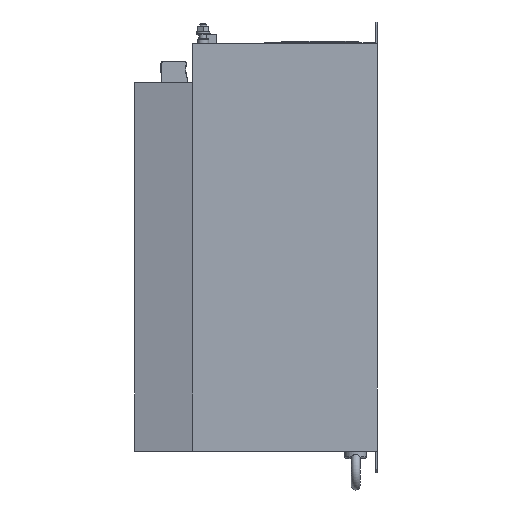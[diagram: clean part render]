
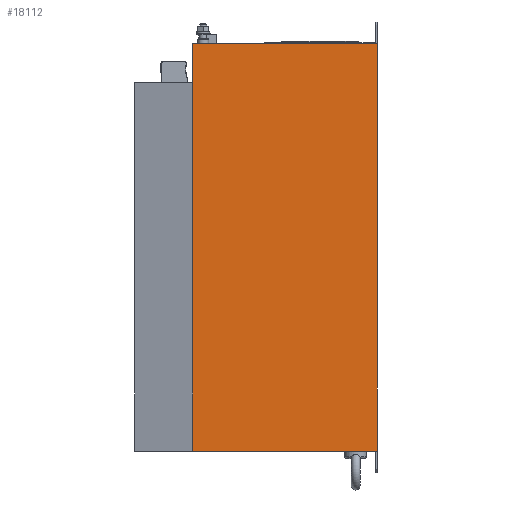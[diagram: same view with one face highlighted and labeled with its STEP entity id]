
A CAD part, front view. The second image highlights one B-rep face of the part: STEP entity #18112.
In plain terms, the highlighted planar face has unit normal (0, -1, 0).
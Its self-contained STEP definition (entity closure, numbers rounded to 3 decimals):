
#12814=CARTESIAN_POINT('',(-73.,-125.,425.0));
#12815=VERTEX_POINT('',#12814);
#12816=CARTESIAN_POINT('',(-73.01,-125.,425.0));
#12817=VERTEX_POINT('',#12816);
#12818=CARTESIAN_POINT('',(-73.,-125.,425.));
#12819=DIRECTION('',(-1.0,0.0,0.0));
#12820=VECTOR('',#12819,0.01);
#12821=LINE('',#12818,#12820);
#12822=EDGE_CURVE('',#12815,#12817,#12821,.T.);
#18056=CARTESIAN_POINT('',(-73.01,-125.,0.0));
#18057=VERTEX_POINT('',#18056);
#18064=CARTESIAN_POINT('',(-73.01,-125.,0.0));
#18065=DIRECTION('',(0.0,0.0,1.0));
#18066=VECTOR('',#18065,425.0);
#18067=LINE('',#18064,#18066);
#18068=EDGE_CURVE('',#18057,#12817,#18067,.T.);
#18073=CARTESIAN_POINT('',(-73.01,-125.,0.0));
#18074=DIRECTION('',(0.0,-1.0,0.0));
#18075=DIRECTION('',(1.0,0.0,0.0));
#18076=AXIS2_PLACEMENT_3D('',#18073,#18074,#18075);
#18077=PLANE('',#18076);
#18078=CARTESIAN_POINT('',(-73.,-125.,470.0));
#18079=VERTEX_POINT('',#18078);
#18080=CARTESIAN_POINT('',(-73.,-125.,470.0));
#18081=DIRECTION('',(0.0,0.0,-1.0));
#18082=VECTOR('',#18081,45.0);
#18083=LINE('',#18080,#18082);
#18084=EDGE_CURVE('',#18079,#12815,#18083,.T.);
#18085=ORIENTED_EDGE('',*,*,#18084,.T.);
#18086=ORIENTED_EDGE('',*,*,#12822,.T.);
#18087=ORIENTED_EDGE('',*,*,#18068,.F.);
#18088=CARTESIAN_POINT('',(140.,-125.0,0.0));
#18089=VERTEX_POINT('',#18088);
#18090=CARTESIAN_POINT('',(140.,-125.0,0.0));
#18091=DIRECTION('',(-1.0,0.0,0.0));
#18092=VECTOR('',#18091,213.01);
#18093=LINE('',#18090,#18092);
#18094=EDGE_CURVE('',#18089,#18057,#18093,.T.);
#18095=ORIENTED_EDGE('',*,*,#18094,.F.);
#18096=CARTESIAN_POINT('',(140.,-125.0,470.0));
#18097=VERTEX_POINT('',#18096);
#18098=CARTESIAN_POINT('',(140.,-125.0,0.0));
#18099=DIRECTION('',(0.0,0.0,1.0));
#18100=VECTOR('',#18099,470.0);
#18101=LINE('',#18098,#18100);
#18102=EDGE_CURVE('',#18089,#18097,#18101,.T.);
#18103=ORIENTED_EDGE('',*,*,#18102,.T.);
#18104=CARTESIAN_POINT('',(-73.,-125.,470.0));
#18105=DIRECTION('',(1.0,0.0,0.0));
#18106=VECTOR('',#18105,213.);
#18107=LINE('',#18104,#18106);
#18108=EDGE_CURVE('',#18079,#18097,#18107,.T.);
#18109=ORIENTED_EDGE('',*,*,#18108,.F.);
#18110=EDGE_LOOP('',(#18085,#18086,#18087,#18095,#18103,#18109));
#18111=FACE_OUTER_BOUND('',#18110,.T.);
#18112=ADVANCED_FACE('',(#18111),#18077,.T.);
